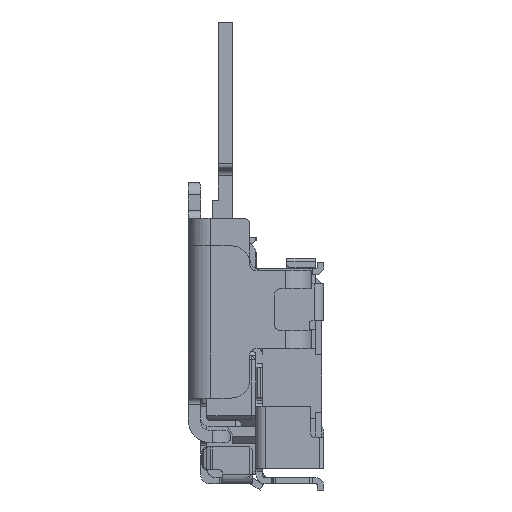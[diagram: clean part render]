
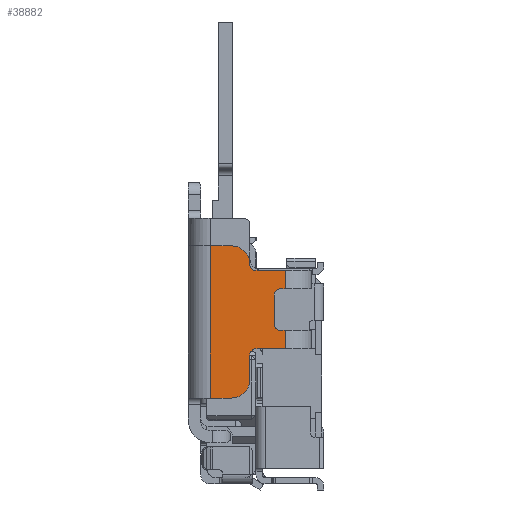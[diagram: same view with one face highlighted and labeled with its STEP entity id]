
A CAD part, left-side view. The second image highlights one B-rep face of the part: STEP entity #38882.
In plain terms, the highlighted planar face has unit normal (-1, 0, 0).
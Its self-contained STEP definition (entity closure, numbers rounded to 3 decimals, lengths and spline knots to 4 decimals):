
#1689 = CARTESIAN_POINT ( 'NONE',  ( -16.5, 0.625, 3.96 ) ) ;
#1833 = ORIENTED_EDGE ( 'NONE', *, *, #67782, .F. ) ;
#2120 = CARTESIAN_POINT ( 'NONE',  ( -16.5, 1.84, 4.36 ) ) ;
#3273 = CARTESIAN_POINT ( 'NONE',  ( -16.5, 1.5, 4.06 ) ) ;
#3339 = DIRECTION ( 'NONE',  ( 0., 0., 1. ) ) ;
#4914 = VECTOR ( 'NONE', #26460, 1000. ) ;
#5481 = LINE ( 'NONE', #25380, #72771 ) ;
#5721 = CARTESIAN_POINT ( 'NONE',  ( -16.5, 1.2, 1.885 ) ) ;
#6280 = VERTEX_POINT ( 'NONE', #7849 ) ;
#6796 = VECTOR ( 'NONE', #42303, 1000. ) ;
#6842 = VECTOR ( 'NONE', #14260, 1000. ) ;
#6978 = AXIS2_PLACEMENT_3D ( 'NONE', #3273, #80710, #47813 ) ;
#7731 = CARTESIAN_POINT ( 'NONE',  ( -16.5, 0.7, 2.985 ) ) ;
#7849 = CARTESIAN_POINT ( 'NONE',  ( -16.5, 1.2, 2.185 ) ) ;
#9761 = VERTEX_POINT ( 'NONE', #35177 ) ;
#11302 = VERTEX_POINT ( 'NONE', #55334 ) ;
#11674 = ORIENTED_EDGE ( 'NONE', *, *, #12335, .F. ) ;
#12335 = EDGE_CURVE ( 'NONE', #53864, #40269, #74745, .T. ) ;
#12382 = CARTESIAN_POINT ( 'NONE',  ( -16.5, 1.84, 2.685 ) ) ;
#12933 = VERTEX_POINT ( 'NONE', #23172 ) ;
#13335 = LINE ( 'NONE', #59555, #40497 ) ;
#14260 = DIRECTION ( 'NONE',  ( 0., -1., 0. ) ) ;
#14287 = AXIS2_PLACEMENT_3D ( 'NONE', #54467, #48387, #15147 ) ;
#14989 = CARTESIAN_POINT ( 'NONE',  ( -16.5, 0.8, 3.56 ) ) ;
#15027 = EDGE_CURVE ( 'NONE', #50554, #46374, #64880, .T. ) ;
#15147 = DIRECTION ( 'NONE',  ( 0., -1., 0. ) ) ;
#17099 = DIRECTION ( 'NONE',  ( 0., -1., 0. ) ) ;
#17523 = CARTESIAN_POINT ( 'NONE',  ( -16.5, 0.625, 3.96 ) ) ;
#17559 = VECTOR ( 'NONE', #49872, 1000. ) ;
#17607 = CARTESIAN_POINT ( 'NONE',  ( -16.5, 0.625, 2.685 ) ) ;
#19098 = ORIENTED_EDGE ( 'NONE', *, *, #25812, .T. ) ;
#20217 = EDGE_LOOP ( 'NONE', ( #63954, #66245, #21629, #1833, #51569, #57670, #55456, #54013, #32730, #28690, #47455, #19098, #34887, #42448, #46903, #72505, #11674 ) ) ;
#21629 = ORIENTED_EDGE ( 'NONE', *, *, #77465, .F. ) ;
#22858 = LINE ( 'NONE', #2120, #6796 ) ;
#23172 = CARTESIAN_POINT ( 'NONE',  ( -16.5, 1.1, 2.685 ) ) ;
#23935 = EDGE_CURVE ( 'NONE', #81319, #80939, #45854, .T. ) ;
#24413 = CARTESIAN_POINT ( 'NONE',  ( -16.5, 1.2, 2.585 ) ) ;
#24575 = AXIS2_PLACEMENT_3D ( 'NONE', #27809, #47686, #41624 ) ;
#25380 = CARTESIAN_POINT ( 'NONE',  ( -16.5, 0.625, 2.685 ) ) ;
#25736 = DIRECTION ( 'NONE',  ( 0., 0., 1. ) ) ;
#25812 = EDGE_CURVE ( 'NONE', #46374, #75660, #26609, .T. ) ;
#26460 = DIRECTION ( 'NONE',  ( 0., 1., 0. ) ) ;
#26609 = CIRCLE ( 'NONE', #66658, 0.1 ) ;
#27792 = EDGE_CURVE ( 'NONE', #6280, #38207, #36184, .T. ) ;
#27809 = CARTESIAN_POINT ( 'NONE',  ( -16.5, 1.1, 2.585 ) ) ;
#28690 = ORIENTED_EDGE ( 'NONE', *, *, #58569, .T. ) ;
#28697 = CIRCLE ( 'NONE', #24575, 0.1 ) ;
#28757 = DIRECTION ( 'NONE',  ( 0., -1., 0. ) ) ;
#32311 = CARTESIAN_POINT ( 'NONE',  ( -16.5, 0.625, 3.66 ) ) ;
#32730 = ORIENTED_EDGE ( 'NONE', *, *, #38677, .T. ) ;
#33542 = FACE_OUTER_BOUND ( 'NONE', #20217, .T. ) ;
#33579 = EDGE_CURVE ( 'NONE', #82367, #40269, #58574, .T. ) ;
#34887 = ORIENTED_EDGE ( 'NONE', *, *, #66361, .T. ) ;
#35177 = CARTESIAN_POINT ( 'NONE',  ( -16.5, 1.5, 1.885 ) ) ;
#35239 = CARTESIAN_POINT ( 'NONE',  ( -16.5, 0.625, 2.685 ) ) ;
#36184 = LINE ( 'NONE', #43959, #47362 ) ;
#37045 = LINE ( 'NONE', #17607, #64033 ) ;
#38207 = VERTEX_POINT ( 'NONE', #24413 ) ;
#38311 = LINE ( 'NONE', #12382, #42895 ) ;
#38574 = LINE ( 'NONE', #5721, #4914 ) ;
#38677 = EDGE_CURVE ( 'NONE', #12933, #69176, #37045, .T. ) ;
#38882 = ADVANCED_FACE ( 'NONE', ( #33542 ), #40017, .T. ) ;
#39028 = CIRCLE ( 'NONE', #54202, 0.1 ) ;
#40017 = PLANE ( 'NONE',  #80593 ) ;
#40269 = VERTEX_POINT ( 'NONE', #17523 ) ;
#40497 = VECTOR ( 'NONE', #79041, 1000. ) ;
#41624 = DIRECTION ( 'NONE',  ( 0., -1., 0. ) ) ;
#42068 = EDGE_CURVE ( 'NONE', #9761, #11302, #38574, .T. ) ;
#42303 = DIRECTION ( 'NONE',  ( 0., -1., 0. ) ) ;
#42448 = ORIENTED_EDGE ( 'NONE', *, *, #23935, .T. ) ;
#42895 = VECTOR ( 'NONE', #85036, 1000. ) ;
#43014 = CARTESIAN_POINT ( 'NONE',  ( -16.5, 1.1, 4.06 ) ) ;
#43959 = CARTESIAN_POINT ( 'NONE',  ( -16.5, 1.2, 1.885 ) ) ;
#43962 = DIRECTION ( 'NONE',  ( 0., -1., 0. ) ) ;
#45603 = EDGE_CURVE ( 'NONE', #53864, #64774, #39028, .T. ) ;
#45854 = CIRCLE ( 'NONE', #73520, 0.1 ) ;
#46374 = VERTEX_POINT ( 'NONE', #7731 ) ;
#46903 = ORIENTED_EDGE ( 'NONE', *, *, #51177, .T. ) ;
#46933 = DIRECTION ( 'NONE',  ( -1., 0., 0. ) ) ;
#47362 = VECTOR ( 'NONE', #3339, 1000. ) ;
#47455 = ORIENTED_EDGE ( 'NONE', *, *, #15027, .T. ) ;
#47686 = DIRECTION ( 'NONE',  ( 1., 0., 0. ) ) ;
#47813 = DIRECTION ( 'NONE',  ( 0., -1., 0. ) ) ;
#48387 = DIRECTION ( 'NONE',  ( -1., 0., 0. ) ) ;
#49872 = DIRECTION ( 'NONE',  ( 0., -1., 0. ) ) ;
#49951 = VECTOR ( 'NONE', #84817, 1000. ) ;
#50554 = VERTEX_POINT ( 'NONE', #66473 ) ;
#51177 = EDGE_CURVE ( 'NONE', #80939, #82367, #84490, .T. ) ;
#51569 = ORIENTED_EDGE ( 'NONE', *, *, #42068, .F. ) ;
#52122 = CARTESIAN_POINT ( 'NONE',  ( -16.5, 0.7, 3.66 ) ) ;
#53693 = VERTEX_POINT ( 'NONE', #60229 ) ;
#53864 = VERTEX_POINT ( 'NONE', #69254 ) ;
#54013 = ORIENTED_EDGE ( 'NONE', *, *, #59227, .T. ) ;
#54202 = AXIS2_PLACEMENT_3D ( 'NONE', #43014, #62900, #17099 ) ;
#54467 = CARTESIAN_POINT ( 'NONE',  ( -16.5, 1.5, 2.185 ) ) ;
#55334 = CARTESIAN_POINT ( 'NONE',  ( -16.5, 1.84, 1.885 ) ) ;
#55456 = ORIENTED_EDGE ( 'NONE', *, *, #27792, .T. ) ;
#57670 = ORIENTED_EDGE ( 'NONE', *, *, #80224, .T. ) ;
#58252 = DIRECTION ( 'NONE',  ( 1., 0., 0. ) ) ;
#58569 = EDGE_CURVE ( 'NONE', #69176, #50554, #5481, .T. ) ;
#58574 = LINE ( 'NONE', #84994, #77335 ) ;
#59227 = EDGE_CURVE ( 'NONE', #38207, #12933, #28697, .T. ) ;
#59478 = CARTESIAN_POINT ( 'NONE',  ( -16.5, 0.625, 2.685 ) ) ;
#59555 = CARTESIAN_POINT ( 'NONE',  ( -16.5, 0.8, 3.085 ) ) ;
#59560 = VERTEX_POINT ( 'NONE', #72264 ) ;
#60229 = CARTESIAN_POINT ( 'NONE',  ( -16.5, 1.5, 4.36 ) ) ;
#62179 = CIRCLE ( 'NONE', #6978, 0.3 ) ;
#62900 = DIRECTION ( 'NONE',  ( 1., 0., 0. ) ) ;
#63196 = EDGE_CURVE ( 'NONE', #64774, #53693, #62179, .T. ) ;
#63954 = ORIENTED_EDGE ( 'NONE', *, *, #45603, .T. ) ;
#64033 = VECTOR ( 'NONE', #43962, 1000. ) ;
#64774 = VERTEX_POINT ( 'NONE', #83619 ) ;
#64880 = LINE ( 'NONE', #78300, #49951 ) ;
#66245 = ORIENTED_EDGE ( 'NONE', *, *, #63196, .T. ) ;
#66361 = EDGE_CURVE ( 'NONE', #75660, #81319, #13335, .T. ) ;
#66473 = CARTESIAN_POINT ( 'NONE',  ( -16.5, 0.625, 2.985 ) ) ;
#66658 = AXIS2_PLACEMENT_3D ( 'NONE', #82330, #76255, #74968 ) ;
#67782 = EDGE_CURVE ( 'NONE', #11302, #59560, #38311, .T. ) ;
#69176 = VERTEX_POINT ( 'NONE', #59478 ) ;
#69254 = CARTESIAN_POINT ( 'NONE',  ( -16.5, 1.1, 3.96 ) ) ;
#71055 = CARTESIAN_POINT ( 'NONE',  ( -16.5, 0.7, 3.66 ) ) ;
#71651 = DIRECTION ( 'NONE',  ( 0., 0., -1. ) ) ;
#72264 = CARTESIAN_POINT ( 'NONE',  ( -16.5, 1.84, 4.36 ) ) ;
#72505 = ORIENTED_EDGE ( 'NONE', *, *, #33579, .T. ) ;
#72771 = VECTOR ( 'NONE', #78131, 1000. ) ;
#73520 = AXIS2_PLACEMENT_3D ( 'NONE', #78579, #58252, #71651 ) ;
#74745 = LINE ( 'NONE', #1689, #6842 ) ;
#74968 = DIRECTION ( 'NONE',  ( 0., 0., 1. ) ) ;
#75660 = VERTEX_POINT ( 'NONE', #81907 ) ;
#76255 = DIRECTION ( 'NONE',  ( 1., 0., 0. ) ) ;
#77335 = VECTOR ( 'NONE', #25736, 1000. ) ;
#77465 = EDGE_CURVE ( 'NONE', #59560, #53693, #22858, .T. ) ;
#77788 = CIRCLE ( 'NONE', #14287, 0.3 ) ;
#78131 = DIRECTION ( 'NONE',  ( 0., 0., 1. ) ) ;
#78300 = CARTESIAN_POINT ( 'NONE',  ( -16.5, 0.7, 2.985 ) ) ;
#78579 = CARTESIAN_POINT ( 'NONE',  ( -16.5, 0.7, 3.56 ) ) ;
#79041 = DIRECTION ( 'NONE',  ( 0., 0., 1. ) ) ;
#80224 = EDGE_CURVE ( 'NONE', #9761, #6280, #77788, .T. ) ;
#80593 = AXIS2_PLACEMENT_3D ( 'NONE', #35239, #46933, #28757 ) ;
#80710 = DIRECTION ( 'NONE',  ( -1., 0., 0. ) ) ;
#80939 = VERTEX_POINT ( 'NONE', #52122 ) ;
#81319 = VERTEX_POINT ( 'NONE', #14989 ) ;
#81907 = CARTESIAN_POINT ( 'NONE',  ( -16.5, 0.8, 3.085 ) ) ;
#82330 = CARTESIAN_POINT ( 'NONE',  ( -16.5, 0.7, 3.085 ) ) ;
#82367 = VERTEX_POINT ( 'NONE', #32311 ) ;
#83619 = CARTESIAN_POINT ( 'NONE',  ( -16.5, 1.2, 4.06 ) ) ;
#84490 = LINE ( 'NONE', #71055, #17559 ) ;
#84817 = DIRECTION ( 'NONE',  ( 0., 1., 0. ) ) ;
#84994 = CARTESIAN_POINT ( 'NONE',  ( -16.5, 0.625, 2.685 ) ) ;
#85036 = DIRECTION ( 'NONE',  ( 0., 0., 1. ) ) ;
